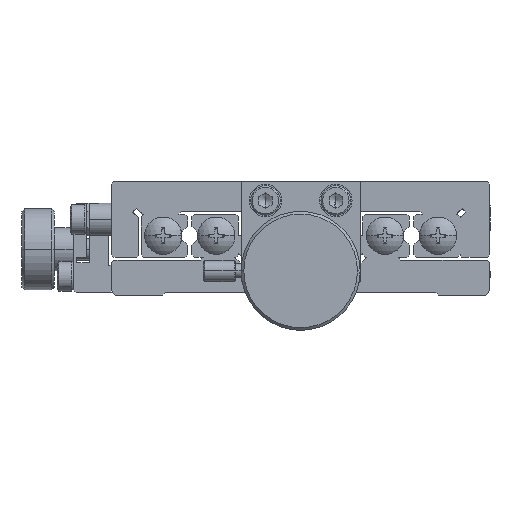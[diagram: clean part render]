
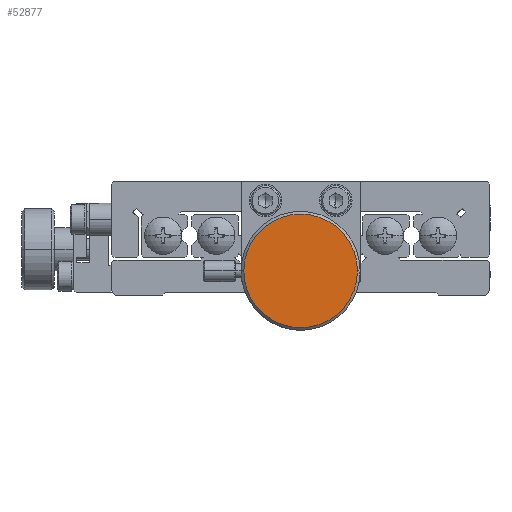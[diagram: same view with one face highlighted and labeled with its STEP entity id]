
A CAD part, front view. The second image highlights one B-rep face of the part: STEP entity #52877.
In plain terms, the highlighted planar face has unit normal (0, -1, 0).
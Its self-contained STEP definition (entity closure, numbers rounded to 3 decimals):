
#5957 = EDGE_LOOP ( 'NONE', ( #6314, #52859 ) ) ;
#6314 = ORIENTED_EDGE ( 'NONE', *, *, #6329, .T. ) ;
#6329 = EDGE_CURVE ( 'NONE', #52858, #52854, #28174, .T. ) ;
#15678 = CARTESIAN_POINT ( 'NONE',  ( 10.5, -110.5, 4.5 ) ) ;
#15726 = PLANE ( 'NONE',  #15730 ) ;
#15730 = AXIS2_PLACEMENT_3D ( 'NONE', #15969, #15968, #15966 ) ;
#15740 = FACE_OUTER_BOUND ( 'NONE', #5957, .T. ) ;
#15784 = CIRCLE ( 'NONE', #15790, 10.5 ) ;
#15790 = AXIS2_PLACEMENT_3D ( 'NONE', #15914, #15913, #15912 ) ;
#15911 = CARTESIAN_POINT ( 'NONE',  ( -10.5, -110.5, 4.5 ) ) ;
#15912 = DIRECTION ( 'NONE',  ( 1., 0., 0. ) ) ;
#15913 = DIRECTION ( 'NONE',  ( 0., -1., 0. ) ) ;
#15914 = CARTESIAN_POINT ( 'NONE',  ( 0., -110.5, 4.5 ) ) ;
#15966 = DIRECTION ( 'NONE',  ( 1., 0., 0. ) ) ;
#15968 = DIRECTION ( 'NONE',  ( 0., -1., 0. ) ) ;
#15969 = CARTESIAN_POINT ( 'NONE',  ( 0., -110.5, 4.5 ) ) ;
#28171 = DIRECTION ( 'NONE',  ( 1., 0., 0. ) ) ;
#28172 = DIRECTION ( 'NONE',  ( 0., -1., 0. ) ) ;
#28173 = AXIS2_PLACEMENT_3D ( 'NONE', #28180, #28172, #28171 ) ;
#28174 = CIRCLE ( 'NONE', #28173, 10.5 ) ;
#28180 = CARTESIAN_POINT ( 'NONE',  ( 0., -110.5, 4.5 ) ) ;
#52854 = VERTEX_POINT ( 'NONE', #15678 ) ;
#52857 = EDGE_CURVE ( 'NONE', #52854, #52858, #15784, .T. ) ;
#52858 = VERTEX_POINT ( 'NONE', #15911 ) ;
#52859 = ORIENTED_EDGE ( 'NONE', *, *, #52857, .T. ) ;
#52877 = ADVANCED_FACE ( 'NONE', ( #15740 ), #15726, .T. ) ;
